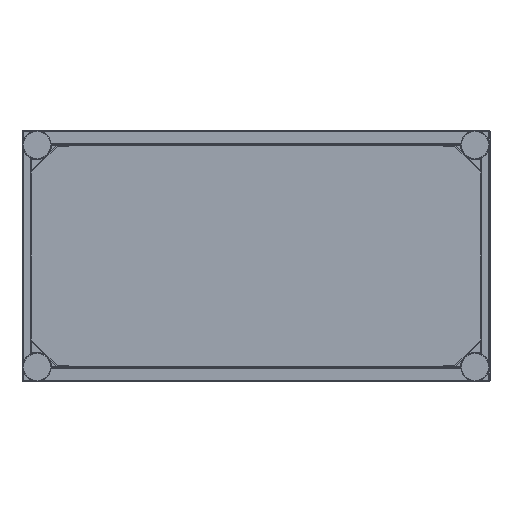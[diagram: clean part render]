
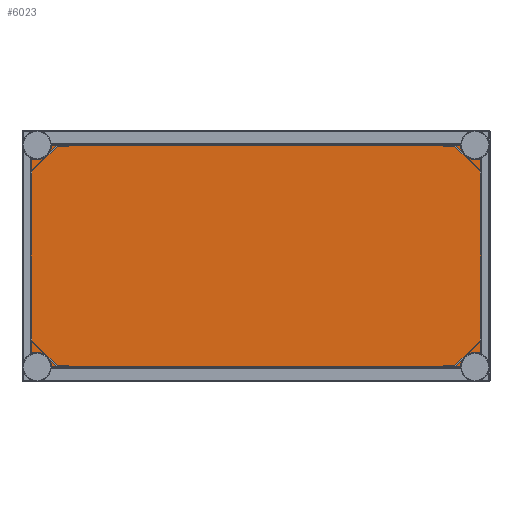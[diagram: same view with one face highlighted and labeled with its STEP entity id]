
A CAD part, front view. The second image highlights one B-rep face of the part: STEP entity #6023.
In plain terms, the highlighted planar face has unit normal (0, -1, 0).
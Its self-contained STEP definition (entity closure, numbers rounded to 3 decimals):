
#5467=CARTESIAN_POINT('',(465.85,-375.,-235.85));
#5468=DIRECTION('',(0.,1.,0.));
#5469=DIRECTION('',(-1.,0.,0.027));
#5470=AXIS2_PLACEMENT_3D('',#5467,#5468,#5469);
#5543=CARTESIAN_POINT('',(465.85,-375.,235.85));
#5544=DIRECTION('',(0.,1.,0.));
#5545=DIRECTION('',(0.422,0.,-0.907));
#5546=AXIS2_PLACEMENT_3D('',#5543,#5544,#5545);
#5624=DIRECTION('',(-1.,0.,0.));
#5625=VECTOR('',#5624,869.423);
#5626=CARTESIAN_POINT('',(434.712,-375.,235.));
#5627=LINE('',#5626,#5625);
#5628=DIRECTION('',(0.,0.,1.));
#5629=VECTOR('',#5628,415.223);
#5630=CARTESIAN_POINT('',(479.,-375.,-207.612));
#5631=LINE('',#5630,#5629);
#5632=DIRECTION('',(1.,0.,0.));
#5633=VECTOR('',#5632,869.423);
#5634=CARTESIAN_POINT('',(-434.712,-375.,-235.));
#5635=LINE('',#5634,#5633);
#5636=DIRECTION('',(0.,0.,-1.));
#5637=VECTOR('',#5636,415.223);
#5638=CARTESIAN_POINT('',(-479.,-375.,207.612));
#5639=LINE('',#5638,#5637);
#5663=CARTESIAN_POINT('',(-465.85,-375.,235.85));
#5664=DIRECTION('',(0.,1.,0.));
#5665=DIRECTION('',(1.,0.,-0.027));
#5666=AXIS2_PLACEMENT_3D('',#5663,#5664,#5665);
#5684=CARTESIAN_POINT('',(-465.85,-375.,-235.85));
#5685=DIRECTION('',(0.,1.,0.));
#5686=DIRECTION('',(-0.422,0.,0.907));
#5687=AXIS2_PLACEMENT_3D('',#5684,#5685,#5686);
#5784=CARTESIAN_POINT('',(-434.712,-375.,235.));
#5785=CARTESIAN_POINT('',(-479.,-375.,207.612));
#5786=VERTEX_POINT('',#5784);
#5787=VERTEX_POINT('',#5785);
#5788=CARTESIAN_POINT('',(479.,-375.,207.612));
#5789=CARTESIAN_POINT('',(434.712,-375.,235.));
#5790=VERTEX_POINT('',#5788);
#5791=VERTEX_POINT('',#5789);
#5792=CARTESIAN_POINT('',(434.712,-375.,-235.));
#5793=CARTESIAN_POINT('',(479.,-375.,-207.612));
#5794=VERTEX_POINT('',#5792);
#5795=VERTEX_POINT('',#5793);
#5796=CARTESIAN_POINT('',(-479.,-375.,-207.612));
#5797=CARTESIAN_POINT('',(-434.712,-375.,-235.));
#5798=VERTEX_POINT('',#5796);
#5799=VERTEX_POINT('',#5797);
#6003=CARTESIAN_POINT('',(0.,-375.,0.));
#6004=DIRECTION('',(0.,-1.,0.));
#6005=DIRECTION('',(-1.,0.,0.));
#6006=AXIS2_PLACEMENT_3D('',#6003,#6004,#6005);
#6007=PLANE('',#6006);
#6009=ORIENTED_EDGE('',*,*,#6008,.F.);
#6011=ORIENTED_EDGE('',*,*,#6010,.F.);
#6012=ORIENTED_EDGE('',*,*,#5923,.F.);
#6013=ORIENTED_EDGE('',*,*,#5997,.F.);
#6014=ORIENTED_EDGE('',*,*,#5848,.F.);
#6016=ORIENTED_EDGE('',*,*,#6015,.F.);
#6018=ORIENTED_EDGE('',*,*,#6017,.F.);
#6020=ORIENTED_EDGE('',*,*,#6019,.F.);
#6021=EDGE_LOOP('',(#6009,#6011,#6012,#6013,#6014,#6016,#6018,#6020));
#6022=FACE_OUTER_BOUND('',#6021,.F.);
#5471=CIRCLE('',#5470,31.15);
#5547=CIRCLE('',#5546,31.15);
#5667=CIRCLE('',#5666,31.15);
#5688=CIRCLE('',#5687,31.15);
#5848=EDGE_CURVE('',#5794,#5795,#5471,.T.);
#5923=EDGE_CURVE('',#5790,#5791,#5547,.T.);
#5997=EDGE_CURVE('',#5795,#5790,#5631,.T.);
#6008=EDGE_CURVE('',#5786,#5787,#5667,.T.);
#6010=EDGE_CURVE('',#5791,#5786,#5627,.T.);
#6015=EDGE_CURVE('',#5799,#5794,#5635,.T.);
#6017=EDGE_CURVE('',#5798,#5799,#5688,.T.);
#6019=EDGE_CURVE('',#5787,#5798,#5639,.T.);
#6023=ADVANCED_FACE('',(#6022),#6007,.T.);
